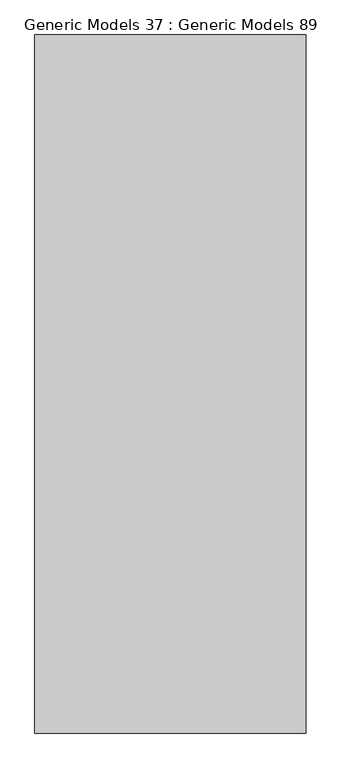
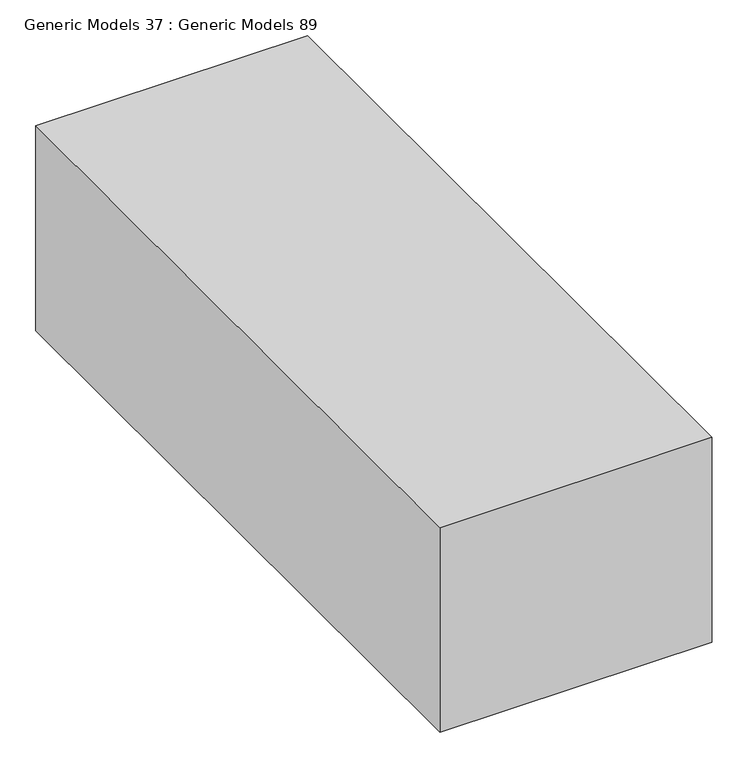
"""IFC4 building model written with IfcOpenShell, lengths in millimetres: proxy geometry, Generic Models 37 : Generic Models 89."""

from ifc_helpers import new_model, si_unit, origin, place, context, project, spatial, faceted_brep, source, transform, mapped, element, save


def generic_models_37_generic_models_89_ea88a495(model_context):
    return source(origin(), model_context, "Body", "Brep", [
        faceted_brep([(91370.7175622, 15809.3170598, 770.0), (90930.3625416, 15809.3170598, 770.0), (90930.3625416, 14676.181403, 770.0), (91370.7175622, 14676.181403, 770.0), (91370.7175622, 15809.3170598, 420.0), (91370.7175622, 14676.181403, 420.0), (90930.3625416, 14676.181403, 420.0), (90930.3625416, 15809.3170598, 420.0), (91370.7175622, 15196.181403, 738.5567437), (91370.7175622, 15196.181403, 450.1218092), (91370.7175622, 14707.7602803, 450.1218092), (91370.7175622, 14707.7602803, 738.5567437), (91370.7175622, 15797.7716543, 448.3898917), (91370.7175622, 15216.181403, 448.3898917), (91370.7175622, 15216.181403, 738.5567437), (91370.7175622, 15797.7716543, 738.5567437), (91370.7175622, 15192.181403, 734.5567437), (91370.7175622, 14711.7602803, 734.5567437), (91370.7175622, 14711.7602803, 454.1218092), (91370.7175622, 15192.181403, 454.1218092), (91367.7175622, 15196.181403, 738.5567437), (91367.7175622, 14707.7602803, 738.5567437), (91367.7175622, 14707.7602803, 450.1218092), (91367.7175622, 15196.181403, 450.1218092), (91367.7175622, 15192.181403, 734.5567437), (91367.7175622, 15192.181403, 454.1218092), (91367.7175622, 14711.7602803, 454.1218092), (91367.7175622, 14711.7602803, 734.5567437), (91044.4118082, 15216.181403, 448.3898917), (91044.4118082, 15216.181403, 738.5567437), (91044.4118082, 15797.7716543, 738.5567437), (91044.4118082, 15797.7716543, 448.3898917)], [[[0, 1, 2, 3]], [[4, 5, 6, 7]], [[1, 0, 4, 7]], [[2, 1, 7, 6]], [[3, 2, 6, 5]], [[0, 3, 5, 4], [8, 9, 10, 11], [12, 13, 14, 15]], [[16, 17, 18, 19]], [[20, 21, 22, 23], [24, 25, 26, 27]], [[20, 23, 9, 8]], [[23, 22, 10, 9]], [[22, 21, 11, 10]], [[21, 20, 8, 11]], [[24, 27, 17, 16]], [[27, 26, 18, 17]], [[26, 25, 19, 18]], [[25, 24, 16, 19]], [[28, 29, 14, 13]], [[30, 31, 12, 15]], [[30, 29, 28, 31]], [[31, 28, 13, 12]], [[29, 30, 15, 14]]]),
    ])


if __name__ == "__main__":
    model = new_model("IFC4")
    model_context = context("Model", 3, world=origin())
    ifc_project = project(units=[si_unit("LENGTHUNIT", "METRE", prefix="MILLI")], contexts=[model_context])
    site = spatial("IfcSite", under=ifc_project)
    building = spatial("IfcBuilding", under=site)
    placement = place(None, origin())
    generic_models_37_generic_models_89_shape = generic_models_37_generic_models_89_ea88a495(model_context)
    element("IfcBuildingElementProxy", 1, Name="Generic Models 37 : Generic Models 89", ObjectType="Generic Models 37 : Generic Models 89", at=placement, inside=building, context=model_context, shape_type="MappedRepresentation", body=[
        mapped(generic_models_37_generic_models_89_shape, transform((0.0, 0.0, 0.0), x_axis=(1.0, 0.0, 0.0), y_axis=(0.0, 1.0, 0.0), z_axis=(0.0, 0.0, 1.0))),
    ])
    save(model, "model.ifc")
